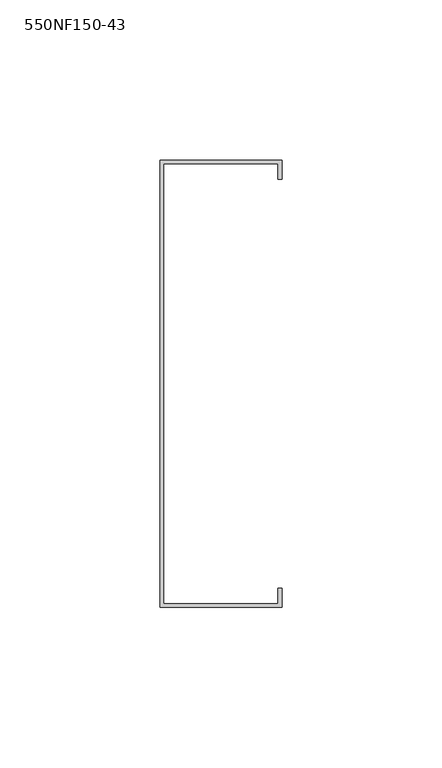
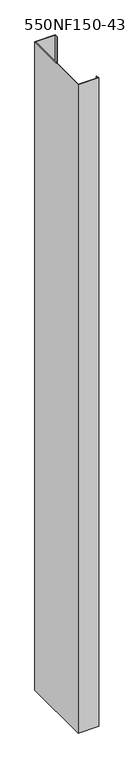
"""IFC4 building model written with IfcOpenShell, lengths in millimetres: column geometry, BIMSF-SSMA-S-Column : 550NF150-43."""

from ifc_helpers import new_model, si_unit, frame, origin, place, context, project, spatial, polyline, outline, extrude, source, transform, mapped, element, save


def column_550nf150_43_69f97449(model_context):
    return source(origin(), model_context, "Body", "SweptSolid", [
        extrude(outline(polyline([(-11.9977877, -80.5871249), (-11.9977877, 59.1128751), (26.1022123, 59.1128751), (26.1022123, 53.1879908), (24.952528, 53.1879908), (24.952528, 57.9631908), (-10.8481035, 57.9631908), (-10.8481035, -79.4374407), (24.952528, -79.4374407), (24.952528, -74.6622407), (26.1022123, -74.6622407), (26.1022123, -80.5871249), (-11.9977877, -80.5871249)])), frame((0.0, 0.0, 5525.3929688), z_axis=(0.0, 0.0, 1.0), x_axis=(1.0, 0.0, 0.0)), (0.0, 0.0, 1.0), 1277.5729992),
    ])


if __name__ == "__main__":
    model = new_model("IFC4")
    model_context = context("Model", 3, world=origin())
    ifc_project = project(units=[si_unit("LENGTHUNIT", "METRE", prefix="MILLI")], contexts=[model_context])
    site = spatial("IfcSite", under=ifc_project)
    building = spatial("IfcBuilding", under=site)
    placement = place(None, origin())
    column_550nf150_43_shape = column_550nf150_43_69f97449(model_context)
    element("IfcColumn", 1, ObjectType="BIMSF-SSMA-S-Column : 550NF150-43", at=placement, inside=building, context=model_context, shape_type="MappedRepresentation", body=[
        mapped(column_550nf150_43_shape, transform((0.0, 0.0, 0.0), x_axis=(1.0, 0.0, 0.0), y_axis=(0.0, 1.0, 0.0), z_axis=(0.0, 0.0, 1.0))),
    ])
    save(model, "model.ifc")
